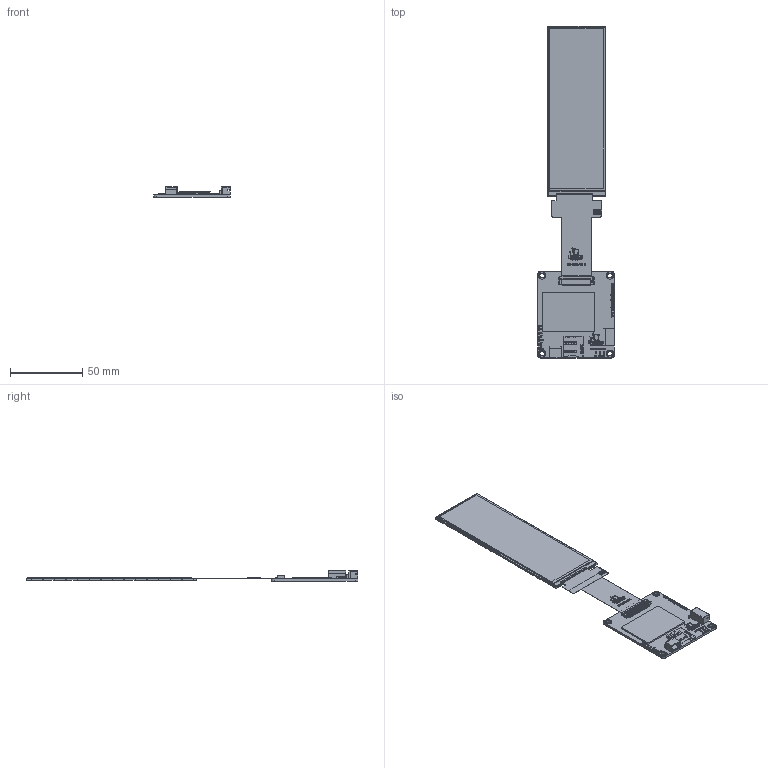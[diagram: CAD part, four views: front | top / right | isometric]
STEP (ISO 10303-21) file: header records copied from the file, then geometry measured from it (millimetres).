
FILE_DESCRIPTION (( 'STEP AP214' ), '1' );
FILE_NAME ('ER-TFT4.58-1-5982.STEP', '2024-07-12T07:22:54', ( '微软用户' ), ( '微软中国' ), 'SwSTEP 2.0', 'SolidWorks 2023', '' );
FILE_SCHEMA (( 'AUTOMOTIVE_DESIGN' ));
Length unit declared in the file: millimetre
Products named in the file (3): ER-TFT4.58-1-5982; ER-TFT4.58-1; ER-PCBA5982-1
Assembly tree (2 placements, depth 2):
  ER-TFT4.58-1-5982
    ER-PCBA5982-1
    ER-TFT4.58-1
Bounding box: 53 x 229.55 x 7.2 mm (x, y, z)
Volume: 16386.7 mm3; surface area: 24312.3 mm2
Topology: 157 solids, 157 shells, 5534 faces, 15920 edges, 10353 vertices
Faces by surface type: plane 3655, bspline 1207, cylinder 672
Entity records: 258644 total; most frequent: CARTESIAN_POINT 83127, ORIENTED_EDGE 31840, DIRECTION 23030, EDGE_CURVE 15920, VECTOR 12102, LINE 12102, VERTEX_POINT 10353, EDGE_LOOP 5839
